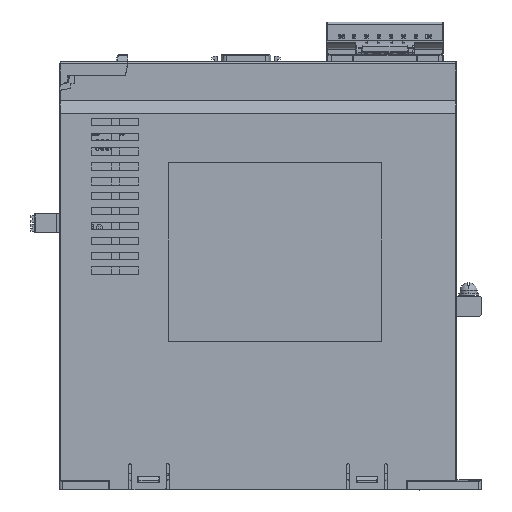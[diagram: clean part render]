
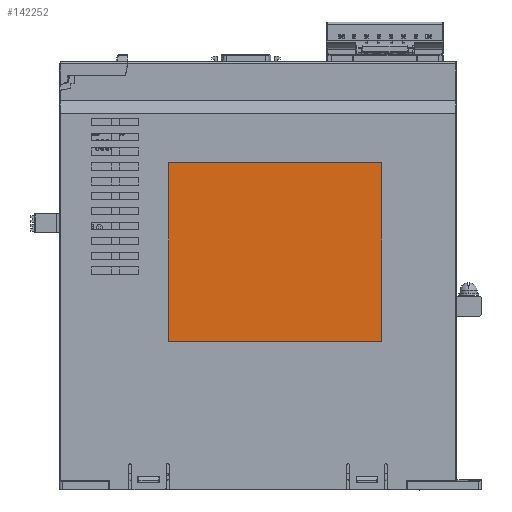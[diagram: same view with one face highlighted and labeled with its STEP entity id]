
A CAD part, left-side view. The second image highlights one B-rep face of the part: STEP entity #142252.
In plain terms, the highlighted planar face has unit normal (-1, 0, 0).
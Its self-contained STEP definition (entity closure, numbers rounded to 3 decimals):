
#49258=DIRECTION('',(0.,1.,0.));
#49259=VECTOR('',#49258,86.);
#49260=CARTESIAN_POINT('',(-24.8,-50.,60.));
#49261=LINE('',#49260,#49259);
#49262=DIRECTION('',(0.,0.,1.));
#49263=VECTOR('',#49262,72.);
#49264=CARTESIAN_POINT('',(-24.8,36.,60.));
#49265=LINE('',#49264,#49263);
#49266=DIRECTION('',(0.,-1.,0.));
#49267=VECTOR('',#49266,86.);
#49268=CARTESIAN_POINT('',(-24.8,36.,132.));
#49269=LINE('',#49268,#49267);
#49278=DIRECTION('',(0.,0.,1.));
#49279=VECTOR('',#49278,72.);
#49280=CARTESIAN_POINT('',(-24.8,-50.,60.));
#49281=LINE('',#49280,#49279);
#71076=CARTESIAN_POINT('',(-24.8,36.,132.));
#71077=VERTEX_POINT('',#71076);
#71078=CARTESIAN_POINT('',(-24.8,36.,60.));
#71079=VERTEX_POINT('',#71078);
#71080=CARTESIAN_POINT('',(-24.8,-50.,132.));
#71081=VERTEX_POINT('',#71080);
#71082=CARTESIAN_POINT('',(-24.8,-50.,60.));
#71083=VERTEX_POINT('',#71082);
#142239=CARTESIAN_POINT('',(-24.8,0.,0.));
#142240=DIRECTION('',(-1.,0.,0.));
#142241=DIRECTION('',(0.,-1.,0.));
#142242=AXIS2_PLACEMENT_3D('',#142239,#142240,#142241);
#142243=PLANE('',#142242);
#142245=ORIENTED_EDGE('',*,*,#142244,.T.);
#142246=ORIENTED_EDGE('',*,*,#142218,.T.);
#142247=ORIENTED_EDGE('',*,*,#142230,.T.);
#142249=ORIENTED_EDGE('',*,*,#142248,.F.);
#142250=EDGE_LOOP('',(#142245,#142246,#142247,#142249));
#142251=FACE_OUTER_BOUND('',#142250,.F.);
#142252=ADVANCED_FACE('',(#142251),#142243,.T.);
#142218=EDGE_CURVE('',#71079,#71077,#49265,.T.);
#142230=EDGE_CURVE('',#71077,#71081,#49269,.T.);
#142244=EDGE_CURVE('',#71083,#71079,#49261,.T.);
#142248=EDGE_CURVE('',#71083,#71081,#49281,.T.);
